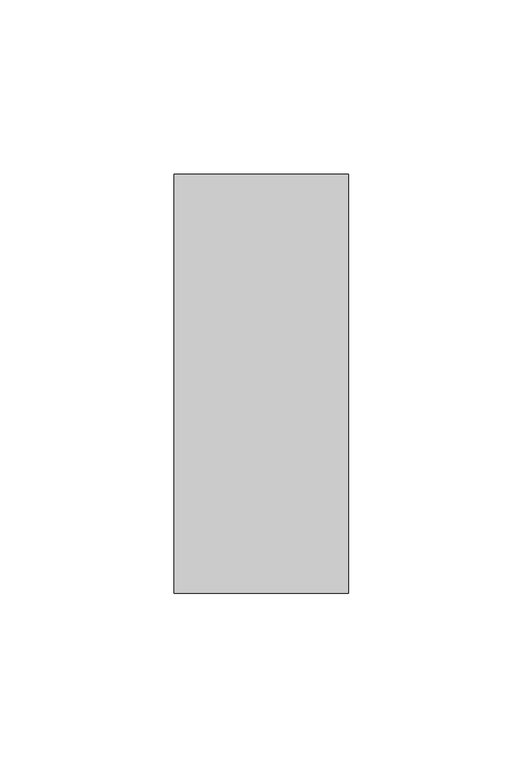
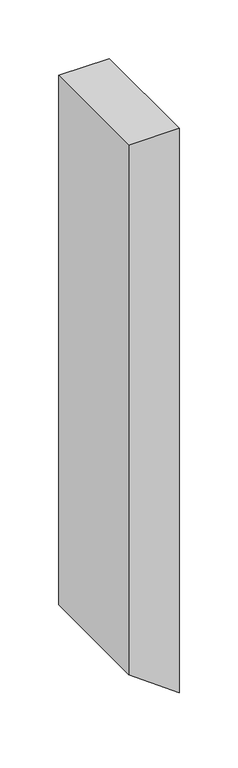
"""IFC4 building model written with IfcOpenShell, lengths in millimetres: member geometry, Прямоугольный импост : 50х120 мм."""

from ifc_helpers import new_model, si_unit, frame, origin, place, context, project, spatial, polyline, outline, extrude, source, transform, mapped, element, save


def member_8b1d7da7(model_context):
    return source(origin(), model_context, "Body", "SweptSolid", [
        extrude(outline(polyline([(0.0, 0.0), (0.0, -50.0), (-552.5101615, -50.0), (-588.8372879, 0.0), (0.0, 0.0)])), frame((0.0, -60.0, 0.0), z_axis=(0.0, 1.0, 0.0), x_axis=(0.0, 0.0, 1.0)), (0.0, 0.0, 1.0), 120.0),
    ])


if __name__ == "__main__":
    model = new_model("IFC4")
    model_context = context("Model", 3, world=origin())
    ifc_project = project(units=[si_unit("LENGTHUNIT", "METRE", prefix="MILLI")], contexts=[model_context])
    site = spatial("IfcSite", under=ifc_project)
    building = spatial("IfcBuilding", under=site)
    placement = place(None, origin())
    member_shape = member_8b1d7da7(model_context)
    element("IfcMember", 1, ObjectType="Прямоугольный импост : 50х120 мм", at=placement, inside=building, context=model_context, shape_type="MappedRepresentation", body=[
        mapped(member_shape, transform((0.0, 0.0, 0.0), x_axis=(1.0, 0.0, 0.0), y_axis=(0.0, 1.0, 0.0), z_axis=(0.0, 0.0, 1.0))),
    ])
    save(model, "model.ifc")
